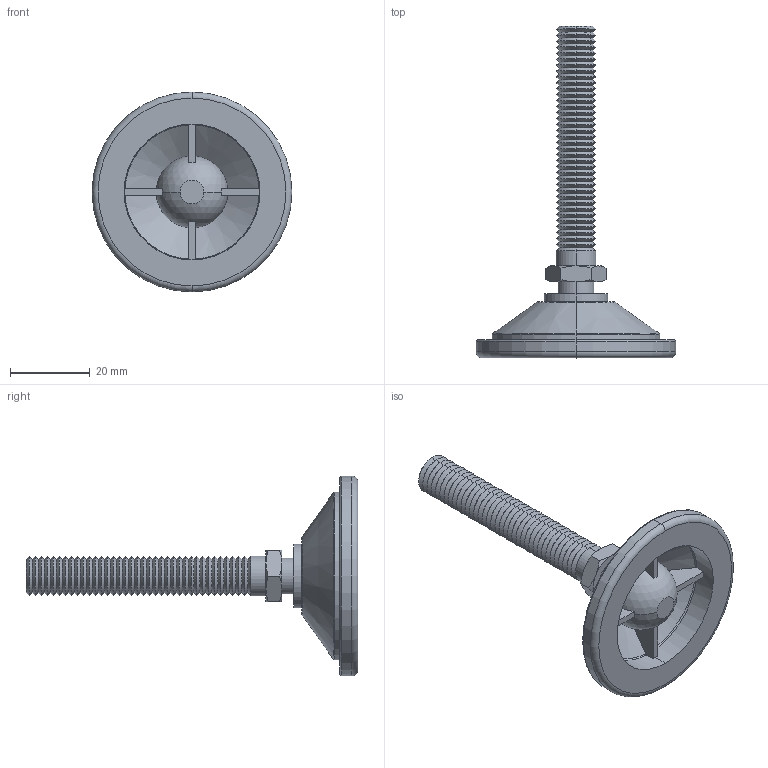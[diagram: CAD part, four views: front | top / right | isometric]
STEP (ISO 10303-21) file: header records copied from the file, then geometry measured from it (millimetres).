
FILE_DESCRIPTION (( 'STEP AP203' ), '1' );
FILE_NAME ('34741.W0103.step', '2016-09-22T07:39:53', ( 'User' ), ( '' ), 'SwSTEP 2.0', 'SolidWorks 2009', '' );
FILE_SCHEMA (( 'CONFIG_CONTROL_DESIGN' ));
Length unit declared in the file: millimetre
Products named in the file (3): Part1_34741.W0103; Part2_34741.W0103; 34741.W0103
Assembly tree (2 placements, depth 2):
  34741.W0103
    Part2_34741.W0103
    Part1_34741.W0103
Bounding box: 50 x 83 x 50 mm (x, y, z)
Volume: 15973.4 mm3; surface area: 10733 mm2
Topology: 2 solids, 2 shells, 228 faces, 492 edges, 270 vertices
Faces by surface type: cone 170, plane 26, cylinder 14, torus 12, sphere 6
Entity records: 6437 total; most frequent: CARTESIAN_POINT 1181, DIRECTION 1162, ORIENTED_EDGE 966, AXIS2_PLACEMENT_3D 486, EDGE_CURVE 483, VERTEX_POINT 265, CIRCLE 253, EDGE_LOOP 234
